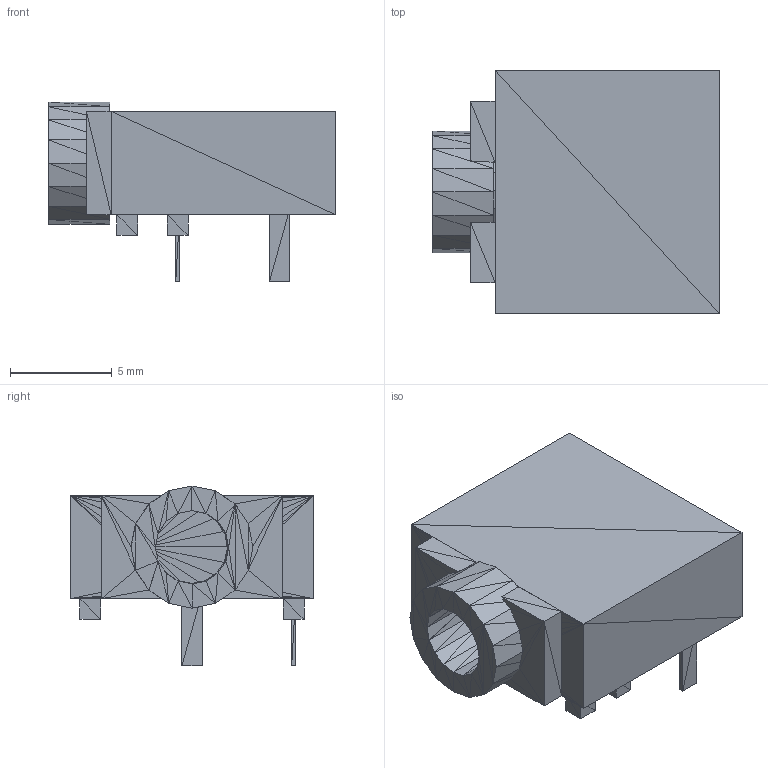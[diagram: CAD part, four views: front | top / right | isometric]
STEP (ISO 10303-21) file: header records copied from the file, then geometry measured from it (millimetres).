
FILE_DESCRIPTION(('HOOPS Exchange Step'),'2;1');
FILE_NAME('***.stp');
FILE_SCHEMA( ('AP242_MANAGED_MODEL_BASED_3D_ENGINEERING_MIM_LF {1 0 10303 442 1 1 4 }') );
Length unit declared in the file: inch
Products named in the file (12): PHJKMINI_2; PHJKMINI_3; PHJKMINI_4; PHJKMINI_5; PHJKMINI_6; PHJKMINI_7; PHJKMINI_8; PHJKMINI_9; PHJKMINI_10; PHJKMINI_11; PHJKMINI_12; PHJKMINI
Assembly tree (11 placements, depth 2):
  PHJKMINI
    PHJKMINI_2
    PHJKMINI_3
    PHJKMINI_4
    PHJKMINI_5
    PHJKMINI_6
    PHJKMINI_7
    PHJKMINI_8
    PHJKMINI_9
    PHJKMINI_10
    PHJKMINI_11
    PHJKMINI_12
Bounding box: 14.1 x 11.99 x 8.84 mm (x, y, z)
Volume: 647.4 mm3; surface area: 1194.5 mm2
Topology: 11 solids, 11 shells, 476 faces, 714 edges, 256 vertices
Faces by surface type: plane 476
Entity records: 9822 total; most frequent: DIRECTION 1714, CARTESIAN_POINT 1470, ORIENTED_EDGE 1428, VECTOR 714, LINE 714, EDGE_CURVE 714, AXIS2_PLACEMENT_3D 500, PLANE 476
